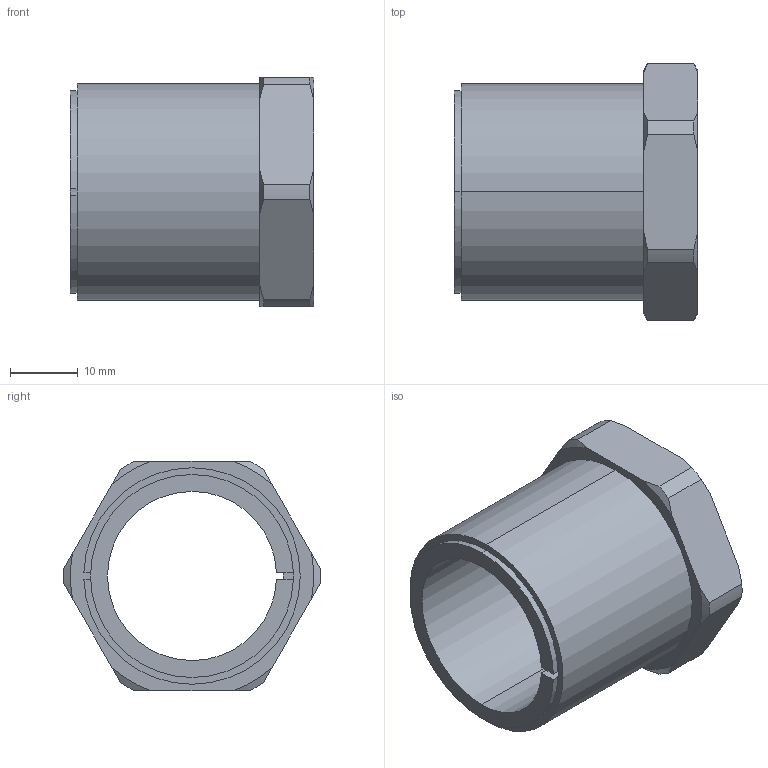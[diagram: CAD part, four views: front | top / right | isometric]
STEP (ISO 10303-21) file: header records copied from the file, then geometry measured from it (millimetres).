
FILE_DESCRIPTION (( 'STEP AP203' ), '1' );
FILE_NAME ('KBS 57 - 25 x 32.STEP', '2015-07-05T18:35:47', ( '' ), ( '' ), 'SwSTEP 2.0', 'SolidWorks 2010', '' );
FILE_SCHEMA (( 'CONFIG_CONTROL_DESIGN' ));
Length unit declared in the file: millimetre
Products named in the file (1): KBS 57 - 25 x 32
Bounding box: 36 x 37.99 x 34 mm (x, y, z)
Volume: 12513.7 mm3; surface area: 7784.3 mm2
Topology: 1 solids, 1 shells, 47 faces, 130 edges, 86 vertices
Faces by surface type: cylinder 16, plane 16, cone 15
Entity records: 1633 total; most frequent: CARTESIAN_POINT 348, ORIENTED_EDGE 260, DIRECTION 252, EDGE_CURVE 130, AXIS2_PLACEMENT_3D 100, VERTEX_POINT 86, VECTOR 52, LINE 52
